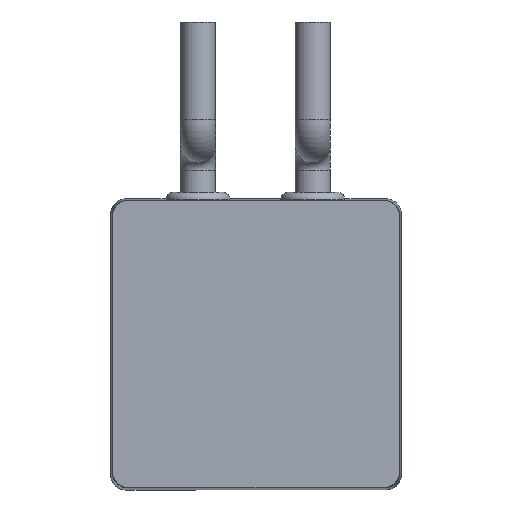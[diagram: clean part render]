
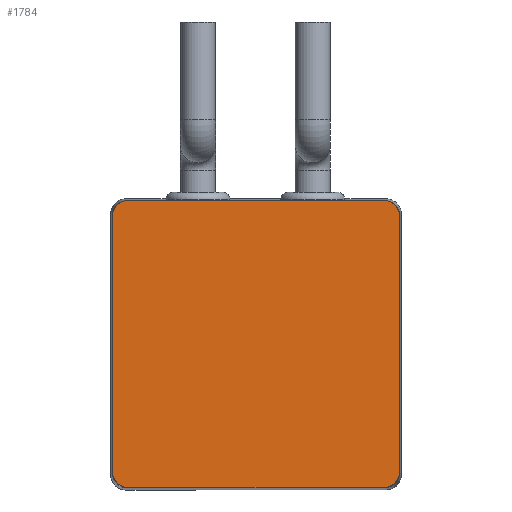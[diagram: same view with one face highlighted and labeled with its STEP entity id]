
A CAD part, top view. The second image highlights one B-rep face of the part: STEP entity #1784.
In plain terms, the highlighted planar face has unit normal (0, 0, 1).
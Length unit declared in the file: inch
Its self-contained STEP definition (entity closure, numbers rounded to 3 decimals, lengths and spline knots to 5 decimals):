
#1308=CARTESIAN_POINT('',(-1.0065,1.125,3.646));
#1309=VERTEX_POINT('',#1308);
#1316=CARTESIAN_POINT('',(1.0065,1.125,3.646));
#1317=VERTEX_POINT('',#1316);
#1318=CARTESIAN_POINT('',(-1.0065,1.125,3.646));
#1319=DIRECTION('',(1.0,0.0,0.0));
#1320=VECTOR('',#1319,2.013);
#1321=LINE('',#1318,#1320);
#1322=EDGE_CURVE('',#1309,#1317,#1321,.T.);
#1509=CARTESIAN_POINT('',(1.125,-1.0065,3.646));
#1510=VERTEX_POINT('',#1509);
#1511=CARTESIAN_POINT('',(1.0065,-1.125,3.646));
#1512=VERTEX_POINT('',#1511);
#1513=CARTESIAN_POINT('',(1.0065,-1.0065,3.646));
#1514=DIRECTION('',(0.0,0.0,-1.));
#1515=DIRECTION('',(0.707,-0.707,0.0));
#1516=AXIS2_PLACEMENT_3D('',#1513,#1514,#1515);
#1517=CIRCLE('',#1516,0.1185);
#1518=EDGE_CURVE('',#1510,#1512,#1517,.T.);
#1609=CARTESIAN_POINT('',(-1.0065,-1.125,3.646));
#1610=VERTEX_POINT('',#1609);
#1611=CARTESIAN_POINT('',(1.0065,-1.125,3.646));
#1612=DIRECTION('',(-1.0,0.0,0.0));
#1613=VECTOR('',#1612,2.013);
#1614=LINE('',#1611,#1613);
#1615=EDGE_CURVE('',#1512,#1610,#1614,.T.);
#1648=CARTESIAN_POINT('',(-1.125,-1.0065,3.646));
#1649=VERTEX_POINT('',#1648);
#1650=CARTESIAN_POINT('',(-1.0065,-1.0065,3.646));
#1651=DIRECTION('',(0.0,0.0,-1.));
#1652=DIRECTION('',(-0.707,-0.707,0.0));
#1653=AXIS2_PLACEMENT_3D('',#1650,#1651,#1652);
#1654=CIRCLE('',#1653,0.1185);
#1655=EDGE_CURVE('',#1610,#1649,#1654,.T.);
#1731=CARTESIAN_POINT('',(-1.125,1.0065,3.646));
#1732=VERTEX_POINT('',#1731);
#1733=CARTESIAN_POINT('',(-1.0065,1.0065,3.646));
#1734=DIRECTION('',(0.0,0.0,-1.));
#1735=DIRECTION('',(-0.707,0.707,0.0));
#1736=AXIS2_PLACEMENT_3D('',#1733,#1734,#1735);
#1737=CIRCLE('',#1736,0.1185);
#1738=EDGE_CURVE('',#1732,#1309,#1737,.T.);
#1751=CARTESIAN_POINT('',(0.0,0.,3.646));
#1752=DIRECTION('',(0.0,0.0,1.0));
#1753=DIRECTION('',(1.0,0.0,0.0));
#1754=AXIS2_PLACEMENT_3D('',#1751,#1752,#1753);
#1755=PLANE('',#1754);
#1756=ORIENTED_EDGE('',*,*,#1518,.F.);
#1757=CARTESIAN_POINT('',(1.125,1.0065,3.646));
#1758=VERTEX_POINT('',#1757);
#1759=CARTESIAN_POINT('',(1.125,1.0065,3.646));
#1760=DIRECTION('',(0.0,-1.0,0.0));
#1761=VECTOR('',#1760,2.013);
#1762=LINE('',#1759,#1761);
#1763=EDGE_CURVE('',#1758,#1510,#1762,.T.);
#1764=ORIENTED_EDGE('',*,*,#1763,.F.);
#1765=CARTESIAN_POINT('',(1.0065,1.0065,3.646));
#1766=DIRECTION('',(0.0,0.0,-1.));
#1767=DIRECTION('',(0.707,0.707,0.0));
#1768=AXIS2_PLACEMENT_3D('',#1765,#1766,#1767);
#1769=CIRCLE('',#1768,0.1185);
#1770=EDGE_CURVE('',#1317,#1758,#1769,.T.);
#1771=ORIENTED_EDGE('',*,*,#1770,.F.);
#1772=ORIENTED_EDGE('',*,*,#1322,.F.);
#1773=ORIENTED_EDGE('',*,*,#1738,.F.);
#1774=CARTESIAN_POINT('',(-1.125,-1.0065,3.646));
#1775=DIRECTION('',(0.0,1.0,0.0));
#1776=VECTOR('',#1775,2.013);
#1777=LINE('',#1774,#1776);
#1778=EDGE_CURVE('',#1649,#1732,#1777,.T.);
#1779=ORIENTED_EDGE('',*,*,#1778,.F.);
#1780=ORIENTED_EDGE('',*,*,#1655,.F.);
#1781=ORIENTED_EDGE('',*,*,#1615,.F.);
#1782=EDGE_LOOP('',(#1756,#1764,#1771,#1772,#1773,#1779,#1780,#1781));
#1783=FACE_OUTER_BOUND('',#1782,.T.);
#1784=ADVANCED_FACE('',(#1783),#1755,.T.);
